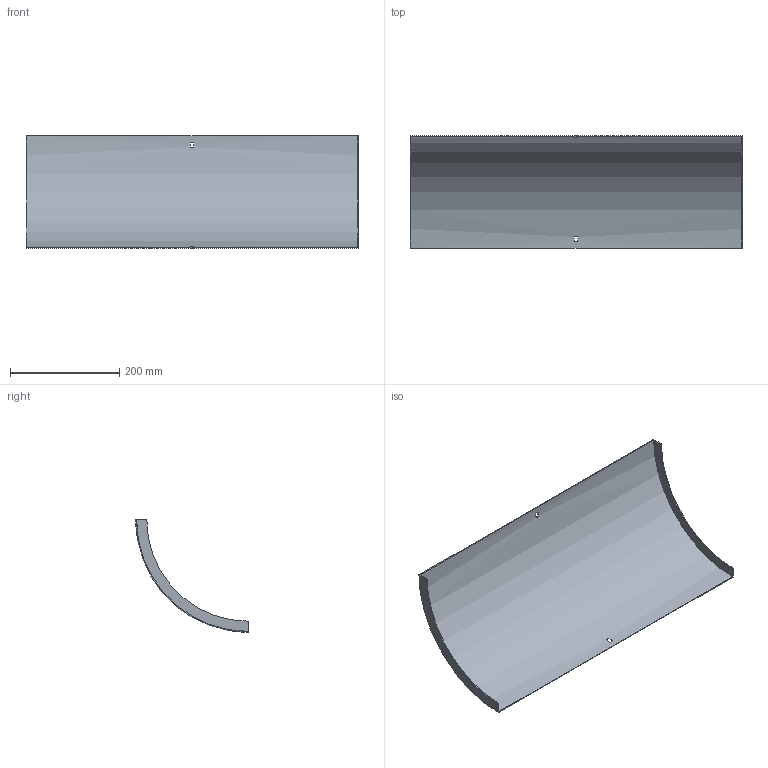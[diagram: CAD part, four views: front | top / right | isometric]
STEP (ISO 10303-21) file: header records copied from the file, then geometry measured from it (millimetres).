
FILE_DESCRIPTION (( 'STEP AP214' ), '1' );
FILE_NAME ('33N1D600.step', '2025-02-21T09:17:18', ( '' ), ( '' ), 'SwSTEP 2.0', 'SolidWorks 2023', '' );
FILE_SCHEMA (( 'AUTOMOTIVE_DESIGN' ));
Length unit declared in the file: millimetre
Products named in the file (1): 33N1D600
Bounding box: 607 x 205.5 x 205.5 mm (x, y, z)
Volume: 309637.6 mm3; surface area: 415753.1 mm2
Topology: 1 solids, 1 shells, 18 faces, 48 edges, 32 vertices
Faces by surface type: plane 14, cylinder 4
Entity records: 599 total; most frequent: DIRECTION 102, CARTESIAN_POINT 99, ORIENTED_EDGE 96, EDGE_CURVE 48, AXIS2_PLACEMENT_3D 35, VERTEX_POINT 32, LINE 32, VECTOR 32
